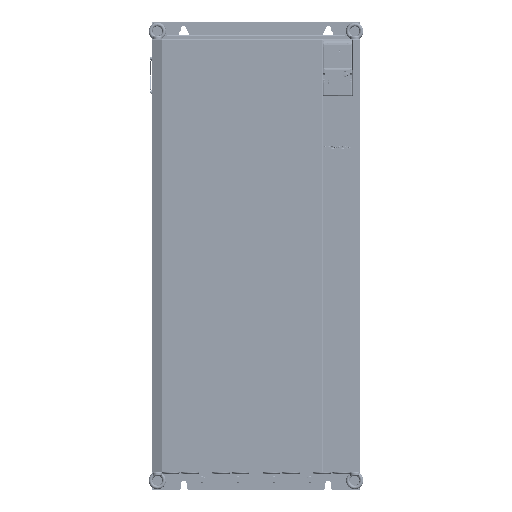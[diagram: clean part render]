
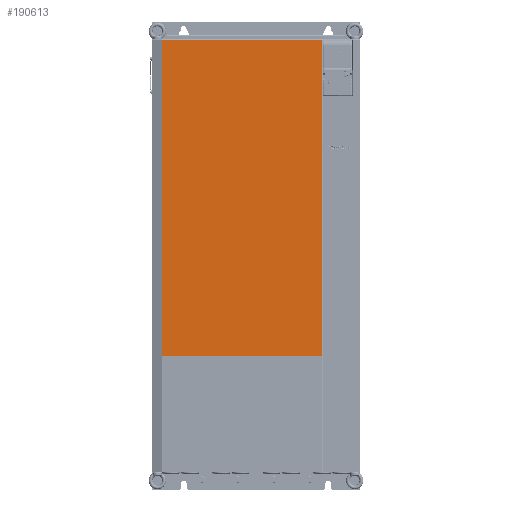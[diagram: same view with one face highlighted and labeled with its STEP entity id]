
A CAD part, top view. The second image highlights one B-rep face of the part: STEP entity #190613.
In plain terms, the highlighted planar face has unit normal (0, 0, 1) as drawn and (0, 1, 0) by its records, which use the part's own axes.
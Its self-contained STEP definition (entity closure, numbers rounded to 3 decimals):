
#188855=DIRECTION('',(0.,0.,-1.));
#188856=VECTOR('',#188855,984.5);
#188857=CARTESIAN_POINT('',(-2.,0.,492.5));
#188858=LINE('',#188857,#188856);
#188960=DIRECTION('',(-1.,0.,0.));
#188961=VECTOR('',#188960,499.872);
#188962=CARTESIAN_POINT('',(-2.,0.,-492.));
#188963=LINE('',#188962,#188961);
#188974=DIRECTION('',(-1.,0.,0.));
#188975=VECTOR('',#188974,499.872);
#188976=CARTESIAN_POINT('',(-2.,0.,492.5));
#188977=LINE('',#188976,#188975);
#189018=DIRECTION('',(0.,0.,1.));
#189019=VECTOR('',#189018,984.5);
#189020=CARTESIAN_POINT('',(-501.872,0.,-492.));
#189021=LINE('',#189020,#189019);
#190076=CARTESIAN_POINT('',(-2.,0.,492.5));
#190077=VERTEX_POINT('',#190076);
#190078=CARTESIAN_POINT('',(-2.,0.,-492.));
#190079=VERTEX_POINT('',#190078);
#190090=CARTESIAN_POINT('',(-501.872,0.,-492.));
#190091=VERTEX_POINT('',#190090);
#190094=CARTESIAN_POINT('',(-501.872,0.,492.5));
#190095=VERTEX_POINT('',#190094);
#190600=CARTESIAN_POINT('',(0.,0.,0.));
#190601=DIRECTION('',(0.,1.,0.));
#190602=DIRECTION('',(1.,0.,0.));
#190603=AXIS2_PLACEMENT_3D('',#190600,#190601,#190602);
#190604=PLANE('',#190603);
#190605=ORIENTED_EDGE('',*,*,#190494,.F.);
#190607=ORIENTED_EDGE('',*,*,#190606,.T.);
#190609=ORIENTED_EDGE('',*,*,#190608,.F.);
#190610=ORIENTED_EDGE('',*,*,#190590,.F.);
#190611=EDGE_LOOP('',(#190605,#190607,#190609,#190610));
#190612=FACE_OUTER_BOUND('',#190611,.F.);
#190494=EDGE_CURVE('',#190077,#190079,#188858,.T.);
#190590=EDGE_CURVE('',#190079,#190091,#188963,.T.);
#190606=EDGE_CURVE('',#190077,#190095,#188977,.T.);
#190608=EDGE_CURVE('',#190091,#190095,#189021,.T.);
#190613=ADVANCED_FACE('',(#190612),#190604,.T.);
